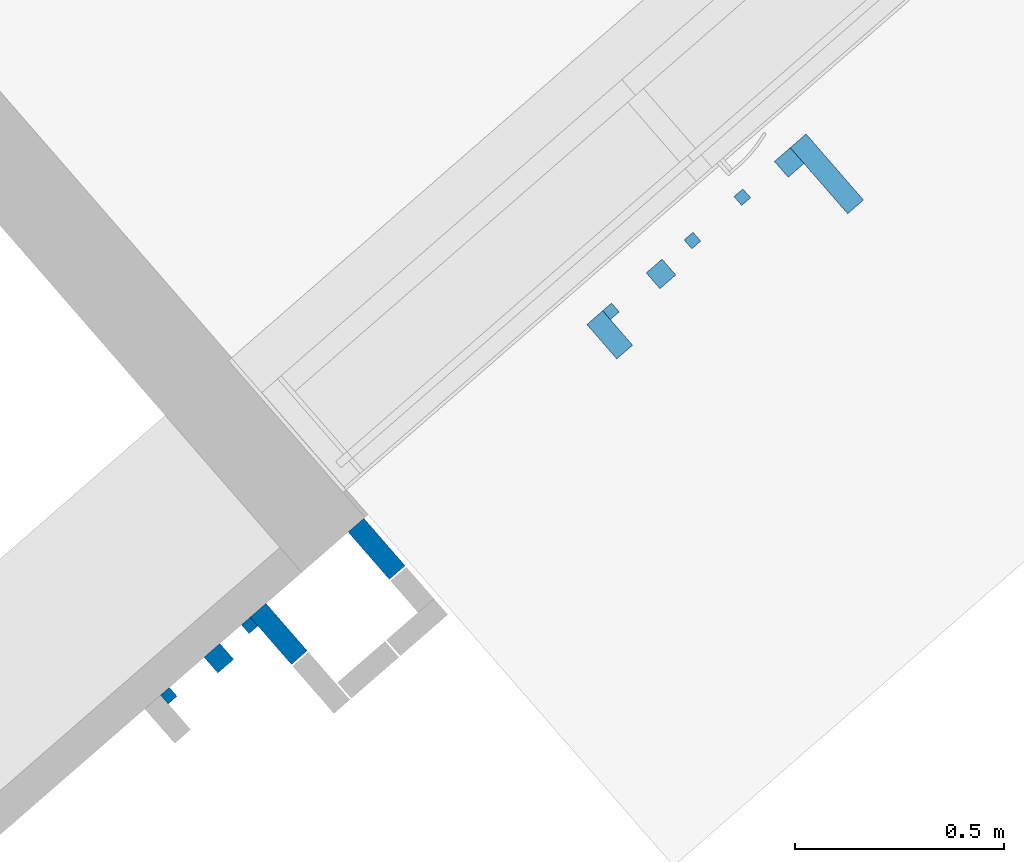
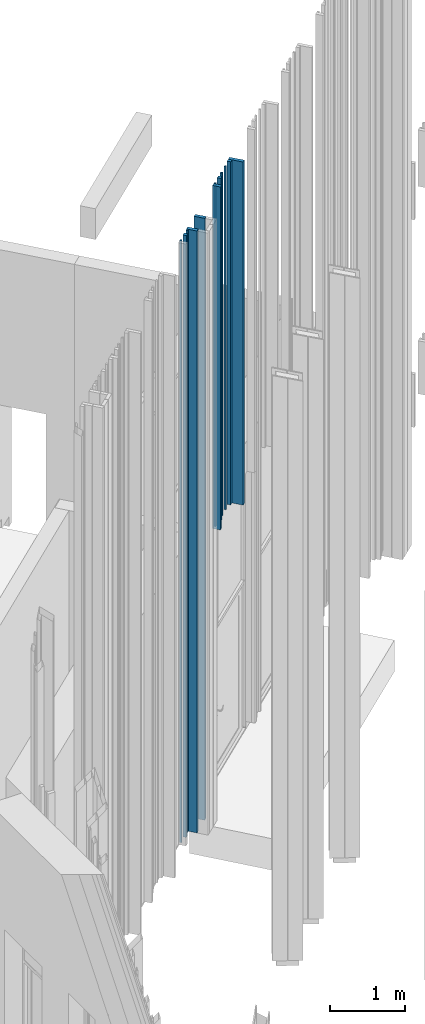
# One storey, part 203 of 390: 12 walls.
"""IFC2X3 building model written with IfcOpenShell, lengths in millimetres."""

from ifc_helpers import new_model, entity, si_unit, converted_unit, derived_unit, money_unit, direction, frame, origin_with_axes, place, context, subcontext, project, spatial, faceted_brep, material, type_object, element, save


model = new_model("IFC2X3")

# Units and contexts
model_context = context("Model", 3, precision=1e-05, world=origin_with_axes(), true_north=direction((0.0, 1.0)))
body_context = subcontext(model_context, "Body", "Model", "MODEL_VIEW")
ifc_project = project(units=[si_unit("LENGTHUNIT", "METRE", prefix="MILLI"), si_unit("AREAUNIT", "SQUARE_METRE"), si_unit("VOLUMEUNIT", "CUBIC_METRE"), converted_unit("PLANEANGLEUNIT", "DEGREE", entity("IfcPlaneAngleMeasure", 0.0174532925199), si_unit("PLANEANGLEUNIT", "RADIAN"), dimensions=[0, 0, 0, 0, 0, 0, 0]), si_unit("SOLIDANGLEUNIT", "STERADIAN"), money_unit("EUR"), converted_unit("TIMEUNIT", "Year", entity("IfcTimeMeasure", 31556926.0), si_unit("TIMEUNIT", "SECOND"), dimensions=[0, 0, 1, 0, 0, 0, 0]), si_unit("MASSUNIT", "GRAM", prefix="KILO"), si_unit("THERMODYNAMICTEMPERATUREUNIT", "DEGREE_CELSIUS"), si_unit("LUMINOUSINTENSITYUNIT", "LUMEN"), si_unit("ENERGYUNIT", "JOULE", prefix="MEGA"), derived_unit("THERMALCONDUCTANCEUNIT", [(si_unit("POWERUNIT", "WATT"), 1), (si_unit("LENGTHUNIT", "METRE"), -1), (si_unit("THERMODYNAMICTEMPERATUREUNIT", "KELVIN"), -1)]), derived_unit("SPECIFICHEATCAPACITYUNIT", [(si_unit("ENERGYUNIT", "JOULE"), 1), (si_unit("MASSUNIT", "GRAM", prefix="KILO"), -1), (si_unit("THERMODYNAMICTEMPERATUREUNIT", "KELVIN"), -1)]), derived_unit("MASSDENSITYUNIT", [(si_unit("MASSUNIT", "GRAM", prefix="KILO"), 1), (si_unit("VOLUMEUNIT", "CUBIC_METRE"), -1)])], contexts=[model_context])

# Site, building, storey
site_placement = place(None, origin_with_axes())
site = spatial("IfcSite", under=ifc_project, at=site_placement, Name="Site", CompositionType="ELEMENT")
building_placement = place(site_placement, origin_with_axes())
building = spatial("IfcBuilding", under=site, at=building_placement, Name="Building", CompositionType="ELEMENT")
storey_placement = place(building_placement, origin_with_axes())
storey = spatial("IfcBuildingStorey", under=building, at=storey_placement, Name="1 korrus", CompositionType="ELEMENT", Elevation=0.0)

# Walls
ifc_material = material(Name="Site specified")
wall_type_1 = type_object("IfcWallType", Name="Puitfassaadi ribistik", PredefinedType="NOTDEFINED")
wall_1_placement = place(storey_placement, frame((145581.833863, 71182.9740964, 4300.0), z_axis=(0.0, 0.0, 1.0), x_axis=(-0.754709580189, -0.65605902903, 0.0)))
element("IfcWall", 1, at=wall_1_placement, inside=storey, type_object=wall_type_1, material=ifc_material, Name="Site specified", context=body_context, shape_type="Brep", body=[
    faceted_brep([(-25.0, -25.0, 5565.0), (-25.0, -25.0, 0.0), (25.0, -25.0, 0.0), (25.0, -25.0, 5565.0), (-25.0, 25.0, 5565.0), (-25.0, 25.0, 0.0), (25.0, 25.0, 0.0), (25.0, 25.0, 5565.0)], [[[0, 1, 2, 3]], [[4, 5, 1, 0]], [[2, 1, 5, 6]], [[3, 2, 6, 7]], [[4, 0, 3, 7]], [[7, 6, 5, 4]]]),
])
wall_2_placement = place(storey_placement, frame((145459.302203, 71037.3710663, 4300.0), z_axis=(0.0, 0.0, 1.0), x_axis=(-0.754709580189, -0.65605902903, 0.0)))
element("IfcWall", 2, at=wall_2_placement, inside=storey, type_object=wall_type_1, material=ifc_material, Name="Site specified", context=body_context, shape_type="Brep", body=[
    faceted_brep([(-25.0, -54.5, 5565.0), (-25.0, -54.5, 0.0), (25.0, -54.5, 0.0), (25.0, -54.5, 5565.0), (-25.0, 54.5, 5565.0), (-25.0, 54.5, 0.0), (25.0, 54.5, 0.0), (25.0, 54.5, 5565.0)], [[[0, 1, 2, 3]], [[4, 5, 1, 0]], [[2, 1, 5, 6]], [[3, 2, 6, 7]], [[4, 0, 3, 7]], [[7, 6, 5, 4]]]),
])
wall_3_placement = place(storey_placement, frame((145888.245952, 71449.3340622, 4300.0), z_axis=(0.0, 0.0, 1.0), x_axis=(-0.754709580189, -0.65605902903, 0.0)))
element("IfcWall", 3, at=wall_3_placement, inside=storey, type_object=wall_type_1, material=ifc_material, Name="Site specified", context=body_context, shape_type="Brep", body=[
    faceted_brep([(-25.0, -25.0, 5565.0), (-25.0, -25.0, 0.0), (25.0, -25.0, 0.0), (25.0, -25.0, 5565.0), (-25.0, 25.0, 5565.0), (-25.0, 25.0, 0.0), (25.0, 25.0, 0.0), (25.0, 25.0, 5565.0)], [[[0, 1, 2, 3]], [[4, 5, 1, 0]], [[2, 1, 5, 6]], [[3, 2, 6, 7]], [[4, 0, 3, 7]], [[7, 6, 5, 4]]]),
])
for number, where, z_axis, x_axis, name in (
    (4, (145656.880558, 71262.7863359, 4300.0), (0.0, 0.0, 1.0), (-0.754709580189, -0.65605902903, 0.0), "Site specified"),
    (5, (145462.165486, 71093.5231064, 4300.0), (0.0, 0.0, 1.0), (-0.754709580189, -0.65605902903, 0.0), "Site specified"),
    (6, (145776.124671, 71366.4436625, 4300.0), (0.0, 0.0, 1.0), (-0.754709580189, -0.65605902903, 0.0), "Site specified"),
):
    element("IfcWall", number, at=place(storey_placement, frame(where, z_axis=z_axis, x_axis=x_axis)), inside=storey, type_object=wall_type_1, material=ifc_material, Name=name, context=body_context, shape_type="Brep", body=[
        faceted_brep([(-14.0, -14.0, 5565.0), (-14.0, -14.0, 0.0), (14.0, -14.0, 0.0), (14.0, -14.0, 5565.0), (-14.0, 14.0, 5565.0), (-14.0, 14.0, 0.0), (14.0, 14.0, 0.0), (14.0, 14.0, 5565.0)], [[[0, 1, 2, 3]], [[4, 5, 1, 0]], [[2, 1, 5, 6]], [[3, 2, 6, 7]], [[4, 0, 3, 7]], [[7, 6, 5, 4]]]),
    ])
wall_4_placement = place(storey_placement, frame((145978.138124, 71422.137602, 4300.0), z_axis=(0.0, 0.0, 1.0), x_axis=(-0.754709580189, -0.65605902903, 0.0)))
element("IfcWall", 7, at=wall_4_placement, inside=storey, type_object=wall_type_1, material=ifc_material, Name="Site specified", context=body_context, shape_type="Brep", body=[
    faceted_brep([(-25.0, -104.5, 5565.0), (-25.0, -104.5, 0.0), (25.0, -104.5, 0.0), (25.0, -104.5, 5565.0), (-25.0, 104.5, 5565.0), (-25.0, 104.5, 0.0), (25.0, 104.5, 0.0), (25.0, 104.5, 5565.0)], [[[0, 1, 2, 3]], [[4, 5, 1, 0]], [[2, 1, 5, 6]], [[3, 2, 6, 7]], [[4, 0, 3, 7]], [[7, 6, 5, 4]]]),
])
wall_5_placement = place(storey_placement, frame((144525.240451, 70264.4914557, 100.0), z_axis=(0.0, 0.0, 1.0), x_axis=(-0.754709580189, -0.65605902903, 0.0)))
element("IfcWall", 8, at=wall_5_placement, inside=storey, type_object=wall_type_1, material=ifc_material, Name="Site specified", context=body_context, shape_type="Brep", body=[
    faceted_brep([(-25.0, -25.0, 9765.0), (-25.0, -25.0, 0.0), (25.0, -25.0, 0.0), (25.0, -25.0, 9765.0), (-25.0, 25.0, 9765.0), (-25.0, 25.0, 0.0), (25.0, 25.0, 0.0), (25.0, 25.0, 9765.0)], [[[0, 1, 2, 3]], [[4, 5, 1, 0]], [[2, 1, 5, 6]], [[3, 2, 6, 7]], [[4, 0, 3, 7]], [[7, 6, 5, 4]]]),
])
for number, where, z_axis, x_axis, name in (
    (9, (144598.777702, 70342.9915559, 100.0), (0.0, 0.0, 1.0), (-0.754709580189, -0.65605902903, 0.0), "Site specified"),
    (10, (144405.572074, 70175.0404658, 100.0), (0.0, 0.0, 1.0), (-0.754709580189, -0.65605902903, 0.0), "Site specified"),
):
    element("IfcWall", number, at=place(storey_placement, frame(where, z_axis=z_axis, x_axis=x_axis)), inside=storey, type_object=wall_type_1, material=ifc_material, Name=name, context=body_context, shape_type="Brep", body=[
        faceted_brep([(-14.0, -14.0, 9765.0), (-14.0, -14.0, 0.0), (14.0, -14.0, 0.0), (14.0, -14.0, 9765.0), (-14.0, 14.0, 9765.0), (-14.0, 14.0, 0.0), (14.0, 14.0, 0.0), (14.0, 14.0, 9765.0)], [[[0, 1, 2, 3]], [[4, 5, 1, 0]], [[2, 1, 5, 6]], [[3, 2, 6, 7]], [[4, 0, 3, 7]], [[7, 6, 5, 4]]]),
    ])
wall_type_2 = type_object("IfcWallType", Name="Puitfassaadi ribisik", PredefinedType="NOTDEFINED")
wall_6_placement = place(storey_placement, frame((144902.190971, 70525.9188941, 100.0), z_axis=(0.0, 0.0, 1.0), x_axis=(-0.754709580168, -0.656059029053, 0.0)))
element("IfcWall", 11, at=wall_6_placement, inside=storey, type_object=wall_type_2, material=ifc_material, Name="Site specified", context=body_context, shape_type="Brep", body=[
    faceted_brep([(25.0, -75.0, 9764.9999949), (-25.0, -75.0, 9764.9999949), (-25.0, -75.0, 0.0), (25.0, -75.0, 0.0), (25.0, 75.0, 9764.9999949), (-25.0, 75.0, 9764.9999949), (-25.0, 75.0, 0.0), (25.0, 75.0, 0.0)], [[[0, 1, 2, 3]], [[4, 5, 1, 0]], [[1, 5, 6, 2]], [[7, 3, 2, 6]], [[4, 0, 3, 7]], [[5, 4, 7, 6]]]),
])
wall_7_placement = place(storey_placement, frame((144668.231022, 70322.5405215, 100.0), z_axis=(0.0, 0.0, 1.0), x_axis=(-0.754709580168, -0.656059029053, 0.0)))
element("IfcWall", 12, at=wall_7_placement, inside=storey, type_object=wall_type_2, material=ifc_material, Name="Site specified", context=body_context, shape_type="Brep", body=[
    faceted_brep([(-25.0, -75.0, 9764.9999949), (-25.0, -75.0, 0.0), (25.0, -75.0, 0.0), (25.0, -75.0, 9764.9999949), (-25.0, 75.0, 9764.9999949), (-25.0, 75.0, 0.0), (25.0, 75.0, 0.0), (25.0, 75.0, 9764.9999949)], [[[0, 1, 2, 3]], [[4, 5, 1, 0]], [[2, 1, 5, 6]], [[3, 2, 6, 7]], [[4, 0, 3, 7]], [[7, 6, 5, 4]]]),
])

save(model, "model.ifc")
